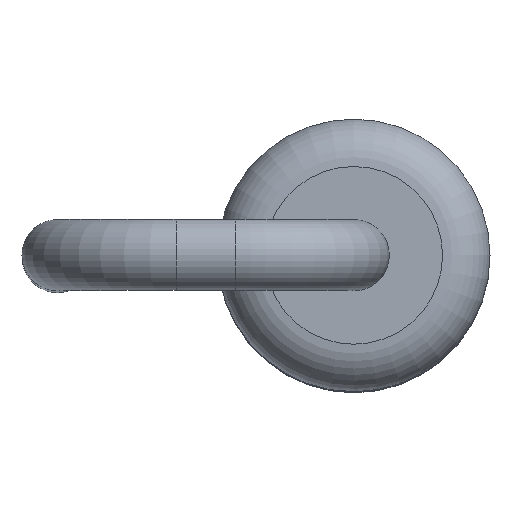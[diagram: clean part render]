
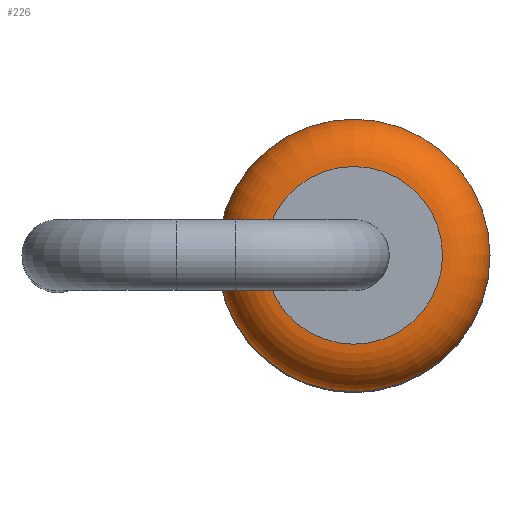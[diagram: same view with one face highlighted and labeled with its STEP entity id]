
A CAD part, top view. The second image highlights one B-rep face of the part: STEP entity #226.
In plain terms, the highlighted toroidal (fillet/blend) face has major radius 0.75 mm and minor radius 0.4 mm.
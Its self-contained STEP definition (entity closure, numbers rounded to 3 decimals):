
#226=ADVANCED_FACE('',(#413,#415),#417,.T.);
#413=FACE_OUTER_BOUND('',#414,.T.);
#414=EDGE_LOOP('',(#508));
#415=FACE_OUTER_BOUND('',#416,.T.);
#416=EDGE_LOOP('',(#509));
#417=TOROIDAL_SURFACE('',#418,0.75,0.4);
#418=AXIS2_PLACEMENT_3D('',#419,#420,#421);
#419=CARTESIAN_POINT('',(0.,0.,-2.85));
#420=DIRECTION('',(0.,0.,-1.));
#421=DIRECTION('',(-1.,0.,0.));
#508=ORIENTED_EDGE('',*,*,#536,.F.);
#509=ORIENTED_EDGE('',*,*,#535,.T.);
#535=EDGE_CURVE('',#567,#567,#568,.T.);
#536=EDGE_CURVE('',#569,#569,#570,.T.);
#567=VERTEX_POINT('',#643);
#568=CIRCLE('',#644,1.15);
#569=VERTEX_POINT('',#648);
#570=CIRCLE('',#649,0.75);
#643=CARTESIAN_POINT('',(-1.15,0.,-2.85));
#644=AXIS2_PLACEMENT_3D('',#645,#646,#647);
#645=CARTESIAN_POINT('',(0.,0.,-2.85));
#646=DIRECTION('',(0.,0.,-1.));
#647=DIRECTION('',(-1.,0.,0.));
#648=CARTESIAN_POINT('',(-0.75,0.,-3.25));
#649=AXIS2_PLACEMENT_3D('',#650,#651,#652);
#650=CARTESIAN_POINT('',(0.,0.,-3.25));
#651=DIRECTION('',(0.,0.,-1.));
#652=DIRECTION('',(-1.,0.,0.));
